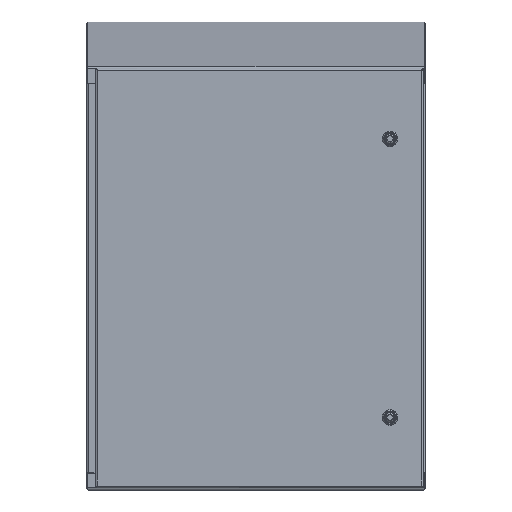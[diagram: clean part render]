
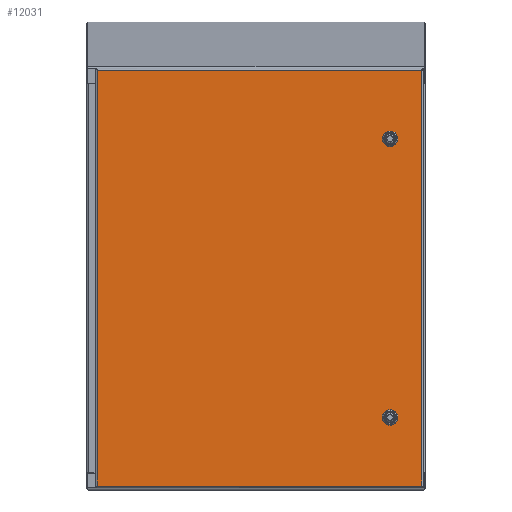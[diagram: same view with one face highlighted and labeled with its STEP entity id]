
A CAD part, top view. The second image highlights one B-rep face of the part: STEP entity #12031.
In plain terms, the highlighted planar face has unit normal (0, 0, 1).
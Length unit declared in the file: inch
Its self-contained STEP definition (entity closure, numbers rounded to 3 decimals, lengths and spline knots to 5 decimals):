
#9528=CARTESIAN_POINT('',(9.25,9.875,0.));
#9529=DIRECTION('',(0.,0.,1.));
#9530=DIRECTION('',(-0.448,0.894,0.));
#9531=AXIS2_PLACEMENT_3D('',#9528,#9529,#9530);
#9536=DIRECTION('',(0.,-1.,0.));
#9537=VECTOR('',#9536,0.39715);
#9538=CARTESIAN_POINT('',(8.854,10.07358,0.));
#9539=LINE('',#9538,#9537);
#9543=CARTESIAN_POINT('',(9.25,9.875,0.));
#9544=DIRECTION('',(0.,0.,1.));
#9545=DIRECTION('',(-0.894,-0.448,0.));
#9546=AXIS2_PLACEMENT_3D('',#9543,#9544,#9545);
#9551=DIRECTION('',(1.,0.,0.));
#9552=VECTOR('',#9551,0.39715);
#9553=CARTESIAN_POINT('',(9.05142,9.479,0.));
#9554=LINE('',#9553,#9552);
#9558=CARTESIAN_POINT('',(9.25,9.875,0.));
#9559=DIRECTION('',(0.,0.,1.));
#9560=DIRECTION('',(0.448,-0.894,0.));
#9561=AXIS2_PLACEMENT_3D('',#9558,#9559,#9560);
#9566=DIRECTION('',(0.,1.,0.));
#9567=VECTOR('',#9566,0.39715);
#9568=CARTESIAN_POINT('',(9.646,9.67642,0.));
#9569=LINE('',#9568,#9567);
#9573=CARTESIAN_POINT('',(9.25,9.875,0.));
#9574=DIRECTION('',(0.,0.,1.));
#9575=DIRECTION('',(0.894,0.448,0.));
#9576=AXIS2_PLACEMENT_3D('',#9573,#9574,#9575);
#9581=DIRECTION('',(-1.,0.,0.));
#9582=VECTOR('',#9581,0.39715);
#9583=CARTESIAN_POINT('',(9.44858,10.271,0.));
#9584=LINE('',#9583,#9582);
#9588=CARTESIAN_POINT('',(9.25,-9.875,0.));
#9589=DIRECTION('',(0.,0.,1.));
#9590=DIRECTION('',(-0.448,0.894,0.));
#9591=AXIS2_PLACEMENT_3D('',#9588,#9589,#9590);
#9596=DIRECTION('',(0.,-1.,0.));
#9597=VECTOR('',#9596,0.39715);
#9598=CARTESIAN_POINT('',(8.854,-9.67642,0.));
#9599=LINE('',#9598,#9597);
#9603=CARTESIAN_POINT('',(9.25,-9.875,0.));
#9604=DIRECTION('',(0.,0.,1.));
#9605=DIRECTION('',(-0.894,-0.448,0.));
#9606=AXIS2_PLACEMENT_3D('',#9603,#9604,#9605);
#9611=DIRECTION('',(1.,0.,0.));
#9612=VECTOR('',#9611,0.39715);
#9613=CARTESIAN_POINT('',(9.05142,-10.271,0.));
#9614=LINE('',#9613,#9612);
#9618=CARTESIAN_POINT('',(9.25,-9.875,0.));
#9619=DIRECTION('',(0.,0.,1.));
#9620=DIRECTION('',(0.448,-0.894,0.));
#9621=AXIS2_PLACEMENT_3D('',#9618,#9619,#9620);
#9626=DIRECTION('',(0.,1.,0.));
#9627=VECTOR('',#9626,0.39715);
#9628=CARTESIAN_POINT('',(9.646,-10.07358,0.));
#9629=LINE('',#9628,#9627);
#9633=CARTESIAN_POINT('',(9.25,-9.875,0.));
#9634=DIRECTION('',(0.,0.,1.));
#9635=DIRECTION('',(0.894,0.448,0.));
#9636=AXIS2_PLACEMENT_3D('',#9633,#9634,#9635);
#9641=DIRECTION('',(-1.,0.,0.));
#9642=VECTOR('',#9641,0.39715);
#9643=CARTESIAN_POINT('',(9.44858,-9.479,0.));
#9644=LINE('',#9643,#9642);
#10006=DIRECTION('',(-1.,0.,0.));
#10007=VECTOR('',#10006,22.98);
#10008=CARTESIAN_POINT('',(11.49,-14.74,0.));
#10009=LINE('',#10008,#10007);
#10112=DIRECTION('',(0.,-1.,0.));
#10113=VECTOR('',#10112,29.48);
#10114=CARTESIAN_POINT('',(11.49,14.74,0.));
#10115=LINE('',#10114,#10113);
#10160=DIRECTION('',(1.,0.,0.));
#10161=VECTOR('',#10160,22.98);
#10162=CARTESIAN_POINT('',(-11.49,14.74,0.));
#10163=LINE('',#10162,#10161);
#10273=DIRECTION('',(0.,1.,0.));
#10274=VECTOR('',#10273,29.48);
#10275=CARTESIAN_POINT('',(-11.49,-14.74,0.));
#10276=LINE('',#10275,#10274);
#11702=CARTESIAN_POINT('',(11.49,14.74,0.));
#11703=CARTESIAN_POINT('',(11.49,-14.74,0.));
#11704=VERTEX_POINT('',#11702);
#11705=VERTEX_POINT('',#11703);
#11706=CARTESIAN_POINT('',(-11.49,-14.74,0.));
#11707=CARTESIAN_POINT('',(-11.49,14.74,0.));
#11708=VERTEX_POINT('',#11706);
#11709=VERTEX_POINT('',#11707);
#11750=CARTESIAN_POINT('',(9.05142,10.271,0.));
#11751=CARTESIAN_POINT('',(8.854,10.07358,0.));
#11752=VERTEX_POINT('',#11750);
#11753=VERTEX_POINT('',#11751);
#11754=CARTESIAN_POINT('',(8.854,9.67642,0.));
#11755=VERTEX_POINT('',#11754);
#11756=CARTESIAN_POINT('',(9.05142,9.479,0.));
#11757=VERTEX_POINT('',#11756);
#11758=CARTESIAN_POINT('',(9.44858,9.479,0.));
#11759=VERTEX_POINT('',#11758);
#11760=CARTESIAN_POINT('',(9.646,9.67642,0.));
#11761=VERTEX_POINT('',#11760);
#11762=CARTESIAN_POINT('',(9.646,10.07358,0.));
#11763=VERTEX_POINT('',#11762);
#11764=CARTESIAN_POINT('',(9.44858,10.271,0.));
#11765=VERTEX_POINT('',#11764);
#11782=CARTESIAN_POINT('',(9.05142,-9.479,0.));
#11783=CARTESIAN_POINT('',(8.854,-9.67642,0.));
#11784=VERTEX_POINT('',#11782);
#11785=VERTEX_POINT('',#11783);
#11786=CARTESIAN_POINT('',(8.854,-10.07358,0.));
#11787=VERTEX_POINT('',#11786);
#11788=CARTESIAN_POINT('',(9.05142,-10.271,0.));
#11789=VERTEX_POINT('',#11788);
#11790=CARTESIAN_POINT('',(9.44858,-10.271,0.));
#11791=VERTEX_POINT('',#11790);
#11792=CARTESIAN_POINT('',(9.646,-10.07358,0.));
#11793=VERTEX_POINT('',#11792);
#11794=CARTESIAN_POINT('',(9.646,-9.67642,0.));
#11795=VERTEX_POINT('',#11794);
#11796=CARTESIAN_POINT('',(9.44858,-9.479,0.));
#11797=VERTEX_POINT('',#11796);
#11980=CARTESIAN_POINT('',(0.,0.,0.));
#11981=DIRECTION('',(0.,0.,-1.));
#11982=DIRECTION('',(1.,0.,0.));
#11983=AXIS2_PLACEMENT_3D('',#11980,#11981,#11982);
#11984=PLANE('',#11983);
#11986=ORIENTED_EDGE('',*,*,#11985,.T.);
#11988=ORIENTED_EDGE('',*,*,#11987,.T.);
#11990=ORIENTED_EDGE('',*,*,#11989,.T.);
#11992=ORIENTED_EDGE('',*,*,#11991,.T.);
#11993=EDGE_LOOP('',(#11986,#11988,#11990,#11992));
#11994=FACE_OUTER_BOUND('',#11993,.F.);
#11996=ORIENTED_EDGE('',*,*,#11995,.T.);
#11998=ORIENTED_EDGE('',*,*,#11997,.T.);
#12000=ORIENTED_EDGE('',*,*,#11999,.T.);
#12002=ORIENTED_EDGE('',*,*,#12001,.T.);
#12004=ORIENTED_EDGE('',*,*,#12003,.T.);
#12006=ORIENTED_EDGE('',*,*,#12005,.T.);
#12008=ORIENTED_EDGE('',*,*,#12007,.T.);
#12010=ORIENTED_EDGE('',*,*,#12009,.T.);
#12011=EDGE_LOOP('',(#11996,#11998,#12000,#12002,#12004,#12006,#12008,#12010));
#12012=FACE_BOUND('',#12011,.F.);
#12014=ORIENTED_EDGE('',*,*,#12013,.T.);
#12016=ORIENTED_EDGE('',*,*,#12015,.T.);
#12018=ORIENTED_EDGE('',*,*,#12017,.T.);
#12020=ORIENTED_EDGE('',*,*,#12019,.T.);
#12022=ORIENTED_EDGE('',*,*,#12021,.T.);
#12024=ORIENTED_EDGE('',*,*,#12023,.T.);
#12026=ORIENTED_EDGE('',*,*,#12025,.T.);
#12028=ORIENTED_EDGE('',*,*,#12027,.T.);
#12029=EDGE_LOOP('',(#12014,#12016,#12018,#12020,#12022,#12024,#12026,#12028));
#12030=FACE_BOUND('',#12029,.F.);
#9532=CIRCLE('',#9531,0.443);
#9547=CIRCLE('',#9546,0.443);
#9562=CIRCLE('',#9561,0.443);
#9577=CIRCLE('',#9576,0.443);
#9592=CIRCLE('',#9591,0.443);
#9607=CIRCLE('',#9606,0.443);
#9622=CIRCLE('',#9621,0.443);
#9637=CIRCLE('',#9636,0.443);
#11985=EDGE_CURVE('',#11705,#11708,#10009,.T.);
#11987=EDGE_CURVE('',#11708,#11709,#10276,.T.);
#11989=EDGE_CURVE('',#11709,#11704,#10163,.T.);
#11991=EDGE_CURVE('',#11704,#11705,#10115,.T.);
#11995=EDGE_CURVE('',#11784,#11785,#9592,.T.);
#11997=EDGE_CURVE('',#11785,#11787,#9599,.T.);
#11999=EDGE_CURVE('',#11787,#11789,#9607,.T.);
#12001=EDGE_CURVE('',#11789,#11791,#9614,.T.);
#12003=EDGE_CURVE('',#11791,#11793,#9622,.T.);
#12005=EDGE_CURVE('',#11793,#11795,#9629,.T.);
#12007=EDGE_CURVE('',#11795,#11797,#9637,.T.);
#12009=EDGE_CURVE('',#11797,#11784,#9644,.T.);
#12013=EDGE_CURVE('',#11752,#11753,#9532,.T.);
#12015=EDGE_CURVE('',#11753,#11755,#9539,.T.);
#12017=EDGE_CURVE('',#11755,#11757,#9547,.T.);
#12019=EDGE_CURVE('',#11757,#11759,#9554,.T.);
#12021=EDGE_CURVE('',#11759,#11761,#9562,.T.);
#12023=EDGE_CURVE('',#11761,#11763,#9569,.T.);
#12025=EDGE_CURVE('',#11763,#11765,#9577,.T.);
#12027=EDGE_CURVE('',#11765,#11752,#9584,.T.);
#12031=ADVANCED_FACE('',(#11994,#12012,#12030),#11984,.F.);
